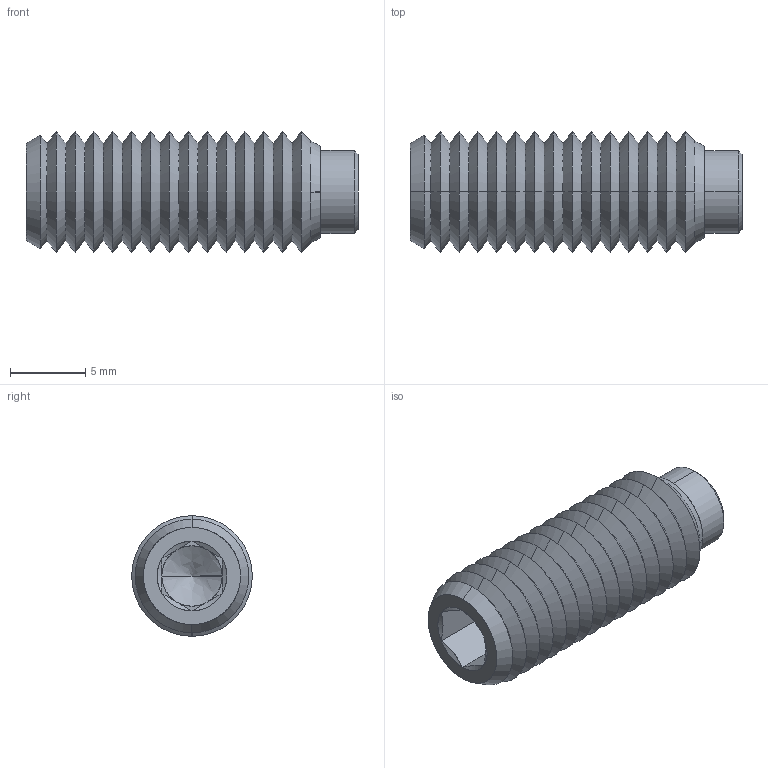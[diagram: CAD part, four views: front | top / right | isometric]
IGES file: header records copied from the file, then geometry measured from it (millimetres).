
Start section: SolidWorks IGES file using analytic representation for surfaces
Global section: file name: C:\Users\IanO\Desktop\P0120_v2_230406\P0120_v2_20230506_IGES\Default.igs; native system: SolidWorks 2019; preprocessor: SolidWorks 2019; author: IanO; date: 230406.142130; units: millimetre
Bounding box: 22 x 8 x 8 mm (x, y, z)
Surface area: 978.4 mm2 (no closed solid volume)
Topology: 0 solids, 0 shells, 93 faces, 630 edges, 628 vertices
Faces by surface type: revolution 76, bspline 17
